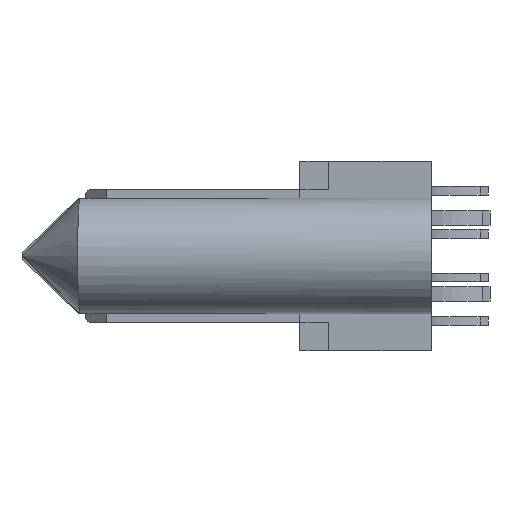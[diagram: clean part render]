
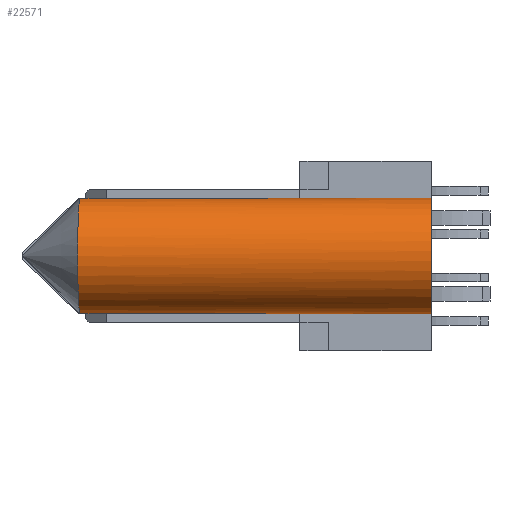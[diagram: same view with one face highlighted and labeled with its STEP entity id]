
A CAD part, left-side view. The second image highlights one B-rep face of the part: STEP entity #22571.
In plain terms, the highlighted cylindrical face has radius 2.55 mm (diameter 5.1 mm), a partial arc.
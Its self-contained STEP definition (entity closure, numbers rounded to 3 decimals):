
#2113=CARTESIAN_POINT('',(-47.43,-5.79,0.));
#2114=DIRECTION('',(0.,1.,0.));
#2115=DIRECTION('',(0.071,0.,-0.998));
#2116=AXIS2_PLACEMENT_3D('',#2113,#2114,#2115);
#5176=CARTESIAN_POINT('',(-47.25,0.,-2.544));
#5177=CARTESIAN_POINT('',(-47.275,1.072,
-2.545));
#5178=CARTESIAN_POINT('',(-47.324,3.218,
-2.548));
#5179=CARTESIAN_POINT('',(-47.398,6.444,
-2.55));
#5180=CARTESIAN_POINT('',(-47.447,8.594,
-2.55));
#5181=CARTESIAN_POINT('',(-47.472,9.67,
-2.55));
#5183=CARTESIAN_POINT('',(-47.472,9.67,2.55));
#5184=CARTESIAN_POINT('',(-47.447,8.594,2.55));
#5185=CARTESIAN_POINT('',(-47.398,6.444,2.55));
#5186=CARTESIAN_POINT('',(-47.324,3.218,2.548));
#5187=CARTESIAN_POINT('',(-47.275,1.072,2.545));
#5188=CARTESIAN_POINT('',(-47.25,0.,2.544));
#5262=DIRECTION('',(0.,1.,0.));
#5263=VECTOR('',#5262,5.79);
#5264=CARTESIAN_POINT('',(-47.25,-5.79,2.544));
#5265=LINE('',#5264,#5263);
#5278=DIRECTION('',(0.,1.,0.));
#5279=VECTOR('',#5278,5.79);
#5280=CARTESIAN_POINT('',(-47.25,-5.79,-2.544));
#5281=LINE('',#5280,#5279);
#6022=CARTESIAN_POINT('',(-47.472,9.67,2.55));
#6023=CARTESIAN_POINT('',(-47.675,9.678,2.546));
#6024=CARTESIAN_POINT('',(-48.081,9.694,2.491));
#6025=CARTESIAN_POINT('',(-48.653,9.716,2.266));
#6026=CARTESIAN_POINT('',(-49.155,9.737,1.911));
#6027=CARTESIAN_POINT('',(-49.558,9.753,1.449));
#6028=CARTESIAN_POINT('',(-49.841,9.764,
0.903));
#6029=CARTESIAN_POINT('',(-49.986,9.77,
0.307));
#6030=CARTESIAN_POINT('',(-49.986,9.77,
-0.307));
#6031=CARTESIAN_POINT('',(-49.841,9.764,
-0.903));
#6032=CARTESIAN_POINT('',(-49.558,9.753,
-1.449));
#6033=CARTESIAN_POINT('',(-49.154,9.737,
-1.911));
#6034=CARTESIAN_POINT('',(-48.653,9.716,
-2.266));
#6035=CARTESIAN_POINT('',(-48.081,9.694,
-2.491));
#6036=CARTESIAN_POINT('',(-47.675,9.678,
-2.546));
#6037=CARTESIAN_POINT('',(-47.472,9.67,
-2.55));
#11862=CARTESIAN_POINT('',(-47.25,-5.79,-2.544));
#11863=VERTEX_POINT('',#11862);
#11864=CARTESIAN_POINT('',(-47.25,-5.79,2.544));
#11865=VERTEX_POINT('',#11864);
#13275=VERTEX_POINT('',#5176);
#13276=VERTEX_POINT('',#5181);
#13277=VERTEX_POINT('',#5183);
#13278=VERTEX_POINT('',#5188);
#22553=CARTESIAN_POINT('',(-47.43,-5.79,0.));
#22554=DIRECTION('',(0.,1.,0.));
#22555=DIRECTION('',(1.,0.,0.));
#22556=AXIS2_PLACEMENT_3D('',#22553,#22554,#22555);
#22557=CYLINDRICAL_SURFACE('',#22556,2.55);
#22559=ORIENTED_EDGE('',*,*,#22558,.T.);
#22561=ORIENTED_EDGE('',*,*,#22560,.F.);
#22563=ORIENTED_EDGE('',*,*,#22562,.T.);
#22565=ORIENTED_EDGE('',*,*,#22564,.F.);
#22566=ORIENTED_EDGE('',*,*,#18576,.F.);
#22568=ORIENTED_EDGE('',*,*,#22567,.T.);
#22569=EDGE_LOOP('',(#22559,#22561,#22563,#22565,#22566,#22568));
#22570=FACE_OUTER_BOUND('',#22569,.F.);
#22571=ADVANCED_FACE('',(#22570),#22557,.T.);
#2117=CIRCLE('',#2116,2.55);
#5182=B_SPLINE_CURVE_WITH_KNOTS('',3,(#5176,#5177,#5178,#5179,#5180,#5181),
.UNSPECIFIED.,.F.,.F.,(4,1,1,4),(0.,0.333,0.667,1.),
.UNSPECIFIED.);
#5189=B_SPLINE_CURVE_WITH_KNOTS('',3,(#5183,#5184,#5185,#5186,#5187,#5188),
.UNSPECIFIED.,.F.,.F.,(4,1,1,4),(0.,0.333,0.667,1.),
.UNSPECIFIED.);
#6038=B_SPLINE_CURVE_WITH_KNOTS('',3,(#6022,#6023,#6024,#6025,#6026,#6027,#6028,
#6029,#6030,#6031,#6032,#6033,#6034,#6035,#6036,#6037),.UNSPECIFIED.,.F.,.F.,(4,
1,1,1,1,1,1,1,1,1,1,1,1,4),(0.,0.077,0.154,
0.231,0.308,0.385,0.462,
0.538,0.615,0.692,0.769,
0.846,0.923,1.),.UNSPECIFIED.);
#18576=EDGE_CURVE('',#11863,#11865,#2117,.T.);
#22558=EDGE_CURVE('',#13275,#13276,#5182,.T.);
#22560=EDGE_CURVE('',#13277,#13276,#6038,.T.);
#22562=EDGE_CURVE('',#13277,#13278,#5189,.T.);
#22564=EDGE_CURVE('',#11865,#13278,#5265,.T.);
#22567=EDGE_CURVE('',#11863,#13275,#5281,.T.);
